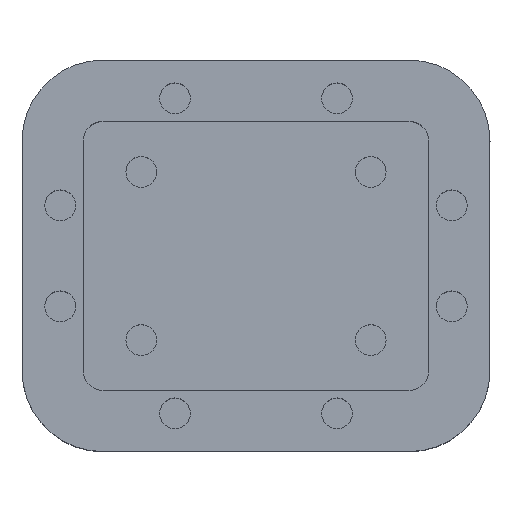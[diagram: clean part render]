
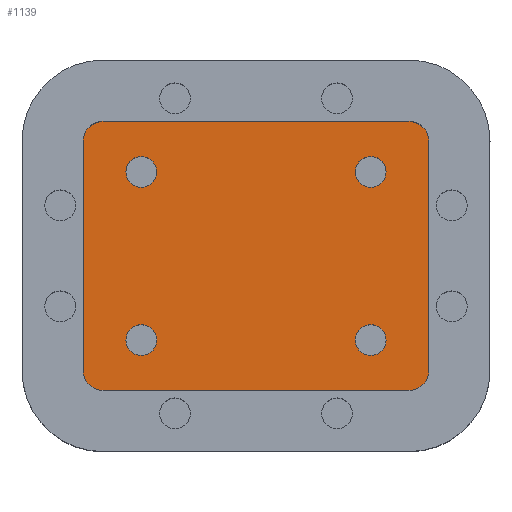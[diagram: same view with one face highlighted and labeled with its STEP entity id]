
A CAD part, top view. The second image highlights one B-rep face of the part: STEP entity #1139.
In plain terms, the highlighted planar face has unit normal (0, 0, 1).
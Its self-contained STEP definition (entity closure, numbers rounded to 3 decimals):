
#20=FACE_BOUND('',#189,.T.);
#21=FACE_BOUND('',#190,.T.);
#22=FACE_BOUND('',#191,.T.);
#23=FACE_BOUND('',#192,.T.);
#67=PLANE('',#1306);
#122=FACE_OUTER_BOUND('',#188,.T.);
#188=EDGE_LOOP('',(#946,#947,#948,#949,#950,#951,#952,#953,#954,#955,#956,
#957));
#189=EDGE_LOOP('',(#958,#959));
#190=EDGE_LOOP('',(#960,#961));
#191=EDGE_LOOP('',(#962,#963));
#192=EDGE_LOOP('',(#964,#965));
#257=LINE('',#1901,#325);
#263=LINE('',#1939,#331);
#269=LINE('',#1994,#337);
#270=LINE('',#1996,#338);
#271=LINE('',#2000,#339);
#272=LINE('',#2003,#340);
#273=LINE('',#2005,#341);
#274=LINE('',#2008,#342);
#325=VECTOR('',#1537,10.);
#331=VECTOR('',#1581,10.);
#337=VECTOR('',#1647,10.);
#338=VECTOR('',#1648,10.);
#339=VECTOR('',#1651,10.);
#340=VECTOR('',#1654,10.);
#341=VECTOR('',#1655,10.);
#342=VECTOR('',#1658,10.);
#430=CIRCLE('',#1283,1.007);
#431=CIRCLE('',#1284,1.007);
#434=CIRCLE('',#1289,1.007);
#435=CIRCLE('',#1290,1.007);
#438=CIRCLE('',#1295,1.007);
#439=CIRCLE('',#1296,1.007);
#442=CIRCLE('',#1301,1.007);
#443=CIRCLE('',#1302,1.007);
#446=CIRCLE('',#1307,1.3);
#447=CIRCLE('',#1308,1.3);
#448=CIRCLE('',#1309,1.3);
#449=CIRCLE('',#1310,1.3);
#521=VERTEX_POINT('',#1899);
#522=VERTEX_POINT('',#1900);
#534=VERTEX_POINT('',#1937);
#535=VERTEX_POINT('',#1938);
#537=VERTEX_POINT('',#1947);
#538=VERTEX_POINT('',#1948);
#541=VERTEX_POINT('',#1958);
#542=VERTEX_POINT('',#1959);
#545=VERTEX_POINT('',#1969);
#546=VERTEX_POINT('',#1970);
#549=VERTEX_POINT('',#1980);
#550=VERTEX_POINT('',#1981);
#553=VERTEX_POINT('',#1991);
#554=VERTEX_POINT('',#1992);
#555=VERTEX_POINT('',#1995);
#556=VERTEX_POINT('',#1997);
#557=VERTEX_POINT('',#1999);
#558=VERTEX_POINT('',#2001);
#559=VERTEX_POINT('',#2004);
#560=VERTEX_POINT('',#2006);
#659=EDGE_CURVE('',#521,#522,#257,.T.);
#678=EDGE_CURVE('',#534,#535,#263,.T.);
#683=EDGE_CURVE('',#537,#538,#430,.T.);
#684=EDGE_CURVE('',#538,#537,#431,.T.);
#688=EDGE_CURVE('',#541,#542,#434,.T.);
#689=EDGE_CURVE('',#542,#541,#435,.T.);
#693=EDGE_CURVE('',#545,#546,#438,.T.);
#694=EDGE_CURVE('',#546,#545,#439,.T.);
#698=EDGE_CURVE('',#549,#550,#442,.T.);
#699=EDGE_CURVE('',#550,#549,#443,.T.);
#703=EDGE_CURVE('',#553,#554,#446,.T.);
#704=EDGE_CURVE('',#554,#534,#269,.T.);
#705=EDGE_CURVE('',#535,#555,#270,.T.);
#706=EDGE_CURVE('',#555,#556,#447,.T.);
#707=EDGE_CURVE('',#556,#557,#271,.T.);
#708=EDGE_CURVE('',#557,#558,#448,.T.);
#709=EDGE_CURVE('',#558,#521,#272,.T.);
#710=EDGE_CURVE('',#522,#559,#273,.T.);
#711=EDGE_CURVE('',#559,#560,#449,.T.);
#712=EDGE_CURVE('',#560,#553,#274,.T.);
#946=ORIENTED_EDGE('',*,*,#703,.T.);
#947=ORIENTED_EDGE('',*,*,#704,.T.);
#948=ORIENTED_EDGE('',*,*,#678,.T.);
#949=ORIENTED_EDGE('',*,*,#705,.T.);
#950=ORIENTED_EDGE('',*,*,#706,.T.);
#951=ORIENTED_EDGE('',*,*,#707,.T.);
#952=ORIENTED_EDGE('',*,*,#708,.T.);
#953=ORIENTED_EDGE('',*,*,#709,.T.);
#954=ORIENTED_EDGE('',*,*,#659,.T.);
#955=ORIENTED_EDGE('',*,*,#710,.T.);
#956=ORIENTED_EDGE('',*,*,#711,.T.);
#957=ORIENTED_EDGE('',*,*,#712,.T.);
#958=ORIENTED_EDGE('',*,*,#683,.T.);
#959=ORIENTED_EDGE('',*,*,#684,.T.);
#960=ORIENTED_EDGE('',*,*,#688,.T.);
#961=ORIENTED_EDGE('',*,*,#689,.T.);
#962=ORIENTED_EDGE('',*,*,#693,.T.);
#963=ORIENTED_EDGE('',*,*,#694,.T.);
#964=ORIENTED_EDGE('',*,*,#698,.T.);
#965=ORIENTED_EDGE('',*,*,#699,.T.);
#1139=ADVANCED_FACE('',(#122,#20,#21,#22,#23),#67,.F.);
#1283=AXIS2_PLACEMENT_3D('',#1949,#1593,#1594);
#1284=AXIS2_PLACEMENT_3D('',#1950,#1595,#1596);
#1289=AXIS2_PLACEMENT_3D('',#1960,#1606,#1607);
#1290=AXIS2_PLACEMENT_3D('',#1961,#1608,#1609);
#1295=AXIS2_PLACEMENT_3D('',#1971,#1619,#1620);
#1296=AXIS2_PLACEMENT_3D('',#1972,#1621,#1622);
#1301=AXIS2_PLACEMENT_3D('',#1982,#1632,#1633);
#1302=AXIS2_PLACEMENT_3D('',#1983,#1634,#1635);
#1306=AXIS2_PLACEMENT_3D('',#1990,#1643,#1644);
#1307=AXIS2_PLACEMENT_3D('',#1993,#1645,#1646);
#1308=AXIS2_PLACEMENT_3D('',#1998,#1649,#1650);
#1309=AXIS2_PLACEMENT_3D('',#2002,#1652,#1653);
#1310=AXIS2_PLACEMENT_3D('',#2007,#1656,#1657);
#1537=DIRECTION('',(0.,-1.,0.));
#1581=DIRECTION('',(0.,1.,0.));
#1593=DIRECTION('center_axis',(0.,0.,-1.));
#1594=DIRECTION('ref_axis',(1.,0.,0.));
#1595=DIRECTION('center_axis',(0.,0.,-1.));
#1596=DIRECTION('ref_axis',(1.,0.,0.));
#1606=DIRECTION('center_axis',(0.,0.,-1.));
#1607=DIRECTION('ref_axis',(1.,0.,0.));
#1608=DIRECTION('center_axis',(0.,0.,-1.));
#1609=DIRECTION('ref_axis',(1.,0.,0.));
#1619=DIRECTION('center_axis',(0.,0.,-1.));
#1620=DIRECTION('ref_axis',(1.,0.,0.));
#1621=DIRECTION('center_axis',(0.,0.,-1.));
#1622=DIRECTION('ref_axis',(1.,0.,0.));
#1632=DIRECTION('center_axis',(0.,0.,-1.));
#1633=DIRECTION('ref_axis',(1.,0.,0.));
#1634=DIRECTION('center_axis',(0.,0.,-1.));
#1635=DIRECTION('ref_axis',(1.,0.,0.));
#1643=DIRECTION('center_axis',(0.,0.,-1.));
#1644=DIRECTION('ref_axis',(-1.,0.,0.));
#1645=DIRECTION('center_axis',(0.,0.,1.));
#1646=DIRECTION('ref_axis',(-1.,0.,0.));
#1647=DIRECTION('',(0.,1.,0.));
#1648=DIRECTION('',(0.,1.,0.));
#1649=DIRECTION('center_axis',(0.,0.,1.));
#1650=DIRECTION('ref_axis',(0.,-1.,0.));
#1651=DIRECTION('',(-1.,0.,0.));
#1652=DIRECTION('center_axis',(0.,0.,1.));
#1653=DIRECTION('ref_axis',(1.,0.,0.));
#1654=DIRECTION('',(0.,-1.,0.));
#1655=DIRECTION('',(0.,-1.,0.));
#1656=DIRECTION('center_axis',(0.,0.,1.));
#1657=DIRECTION('ref_axis',(0.,1.,0.));
#1658=DIRECTION('',(1.,0.,0.));
#1899=CARTESIAN_POINT('',(-0.3,9.845,-0.79));
#1900=CARTESIAN_POINT('',(-0.3,7.155,-0.79));
#1901=CARTESIAN_POINT('',(-0.3,16.,-0.79));
#1937=CARTESIAN_POINT('',(22.3,7.155,-0.79));
#1938=CARTESIAN_POINT('',(22.3,9.845,-0.79));
#1939=CARTESIAN_POINT('',(22.3,1.,-0.79));
#1947=CARTESIAN_POINT('',(19.506,14.,-0.79));
#1948=CARTESIAN_POINT('',(17.493,14.,-0.79));
#1949=CARTESIAN_POINT('Origin',(18.5,14.,-0.79));
#1950=CARTESIAN_POINT('Origin',(18.5,14.,-0.79));
#1958=CARTESIAN_POINT('',(4.506,14.,-0.79));
#1959=CARTESIAN_POINT('',(2.493,14.,-0.79));
#1960=CARTESIAN_POINT('Origin',(3.5,14.,-0.79));
#1961=CARTESIAN_POINT('Origin',(3.5,14.,-0.79));
#1969=CARTESIAN_POINT('',(4.506,3.,-0.79));
#1970=CARTESIAN_POINT('',(2.493,3.,-0.79));
#1971=CARTESIAN_POINT('Origin',(3.5,3.,-0.79));
#1972=CARTESIAN_POINT('Origin',(3.5,3.,-0.79));
#1980=CARTESIAN_POINT('',(19.506,3.,-0.79));
#1981=CARTESIAN_POINT('',(17.493,3.,-0.79));
#1982=CARTESIAN_POINT('Origin',(18.5,3.,-0.79));
#1983=CARTESIAN_POINT('Origin',(18.5,3.,-0.79));
#1990=CARTESIAN_POINT('Origin',(11.,8.5,-0.79));
#1991=CARTESIAN_POINT('',(21.,-0.3,-0.79));
#1992=CARTESIAN_POINT('',(22.3,1.,-0.79));
#1993=CARTESIAN_POINT('Origin',(21.,1.,-0.79));
#1994=CARTESIAN_POINT('',(22.3,1.,-0.79));
#1995=CARTESIAN_POINT('',(22.3,16.,-0.79));
#1996=CARTESIAN_POINT('',(22.3,1.,-0.79));
#1997=CARTESIAN_POINT('',(21.,17.3,-0.79));
#1998=CARTESIAN_POINT('Origin',(21.,16.,-0.79));
#1999=CARTESIAN_POINT('',(1.,17.3,-0.79));
#2000=CARTESIAN_POINT('',(21.,17.3,-0.79));
#2001=CARTESIAN_POINT('',(-0.3,16.,-0.79));
#2002=CARTESIAN_POINT('Origin',(1.,16.,-0.79));
#2003=CARTESIAN_POINT('',(-0.3,16.,-0.79));
#2004=CARTESIAN_POINT('',(-0.3,1.,-0.79));
#2005=CARTESIAN_POINT('',(-0.3,16.,-0.79));
#2006=CARTESIAN_POINT('',(1.,-0.3,-0.79));
#2007=CARTESIAN_POINT('Origin',(1.,1.,-0.79));
#2008=CARTESIAN_POINT('',(1.,-0.3,-0.79));
